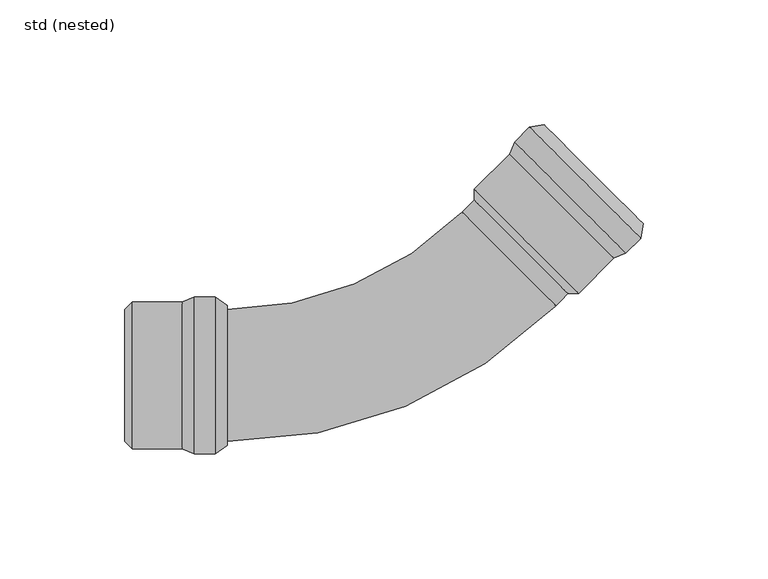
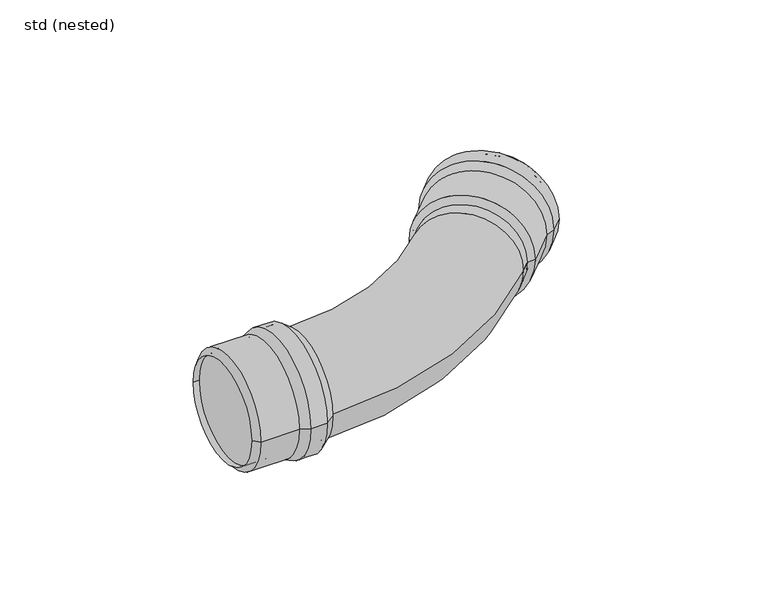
"""IFC4 building model written with IfcOpenShell, lengths in millimetres: pipe fitting geometry, ZZZ_do not use_PIF_ST_UN_GM-X pipe bend_ACO : std (nested)."""

from ifc_helpers import new_model, si_unit, point, frame, origin, place, context, project, spatial, polyline, circle_curve, ellipse_curve, trimmed, source, transform, mapped, element, save
from ifc_brep_helpers import plane_surface, cylinder_surface, revolved_surface, advanced_brep


def std_nested_b0fd537b(model_context):
    return source(origin(), model_context, "Body", "AdvancedBrep", [
        advanced_brep(
        [(-79.2, -31.5, 0.0), (-79.2, 31.5, 0.0), (-70.8, 31.5, 0.0), (-70.8, -31.5, 0.0), (-84.0, -29.5, 0.0), (-84.0, 29.5, 0.0), (-66.0, 28.0, 0.0), (-66.0, -28.0, 0.0), (-104.0, -29.5, 0.0), (-104.0, 29.5, 0.0), (-107.0, -26.5, 0.0), (-107.0, 26.5, 0.0), (-104.0, -26.5, 0.0), (-104.0, 26.5, 0.0), (-83.7, -28.0, 0.0), (-83.7, 28.0, 0.0), (-104.0, 28.0, 0.0), (-104.0, -28.0, 0.0), (-78.9, -30.0, 0.0), (-78.9, 30.0, 0.0), (-71.2888023, -30.0, 0.0), (-71.2888023, 30.0, 0.0), (-66.8837582, -26.7879887, 0.0), (-66.8837582, 26.7879887, 0.0)],
        [
            (0, 1, circle_curve(frame((-79.2, 0.0, 0.0), z_axis=(1.0, 0.0, 0.0), x_axis=(0.0, 1.0, 0.0)), 31.5)),
            (1, 2),
            (2, 3, circle_curve(frame((-70.8, 0.0, 0.0), z_axis=(-1.0, 0.0, 0.0), x_axis=(0.0, 1.0, 0.0)), 31.5)),
            (3, 0),
            (1, 0, circle_curve(frame((-79.2, 0.0, 0.0), z_axis=(1.0, 0.0, 0.0), x_axis=(0.0, 1.0, 0.0)), 31.5)),
            (3, 2, circle_curve(frame((-70.8, 0.0, 0.0), z_axis=(-1.0, 0.0, 0.0), x_axis=(0.0, 1.0, 0.0)), 31.5)),
            (4, 5, circle_curve(frame((-84.0, 0.0, 0.0), z_axis=(1.0, 0.0, 0.0), x_axis=(0.0, 1.0, 0.0)), 29.5)),
            (5, 1),
            (0, 4),
            (5, 4, circle_curve(frame((-84.0, 0.0, 0.0), z_axis=(1.0, 0.0, 0.0), x_axis=(0.0, 1.0, 0.0)), 29.5)),
            (2, 6),
            (6, 7, circle_curve(frame((-66.0, 0.0, 0.0), z_axis=(-1.0, 0.0, 0.0), x_axis=(0.0, 1.0, 0.0)), 28.0)),
            (7, 3),
            (7, 6, circle_curve(frame((-66.0, 0.0, 0.0), z_axis=(-1.0, 0.0, 0.0), x_axis=(0.0, 1.0, 0.0)), 28.0)),
            (8, 9, circle_curve(frame((-104.0, 0.0, 0.0), z_axis=(1.0, 0.0, 0.0), x_axis=(0.0, 1.0, 0.0)), 29.5)),
            (9, 5),
            (4, 8),
            (9, 8, circle_curve(frame((-104.0, 0.0, 0.0), z_axis=(1.0, 0.0, 0.0), x_axis=(0.0, 1.0, 0.0)), 29.5)),
            (10, 11, circle_curve(frame((-107.0, 0.0, 0.0), z_axis=(1.0, 0.0, 0.0), x_axis=(0.0, 1.0, 0.0)), 26.5)),
            (11, 9),
            (8, 10),
            (11, 10, circle_curve(frame((-107.0, 0.0, 0.0), z_axis=(1.0, 0.0, 0.0), x_axis=(0.0, 1.0, 0.0)), 26.5)),
            (12, 13, circle_curve(frame((-104.0, 0.0, 0.0), z_axis=(1.0, 0.0, 0.0), x_axis=(0.0, 1.0, 0.0)), 26.5)),
            (13, 11),
            (10, 12),
            (13, 12, circle_curve(frame((-104.0, 0.0, 0.0), z_axis=(1.0, 0.0, 0.0), x_axis=(0.0, 1.0, 0.0)), 26.5)),
            (14, 15, circle_curve(frame((-83.7, 0.0, 0.0), z_axis=(1.0, 0.0, 0.0), x_axis=(0.0, 1.0, 0.0)), 28.0)),
            (15, 16),
            (16, 17, circle_curve(frame((-104.0, 0.0, 0.0), z_axis=(-1.0, 0.0, 0.0), x_axis=(0.0, 1.0, 0.0)), 28.0)),
            (17, 14),
            (15, 14, circle_curve(frame((-83.7, 0.0, 0.0), z_axis=(1.0, 0.0, 0.0), x_axis=(0.0, 1.0, 0.0)), 28.0)),
            (17, 16, circle_curve(frame((-104.0, 0.0, 0.0), z_axis=(-1.0, 0.0, 0.0), x_axis=(0.0, 1.0, 0.0)), 28.0)),
            (18, 19, circle_curve(frame((-78.9, 0.0, 0.0), z_axis=(1.0, 0.0, 0.0), x_axis=(0.0, 1.0, 0.0)), 30.0)),
            (19, 15),
            (14, 18),
            (19, 18, circle_curve(frame((-78.9, 0.0, 0.0), z_axis=(1.0, 0.0, 0.0), x_axis=(0.0, 1.0, 0.0)), 30.0)),
            (20, 21, circle_curve(frame((-71.2888023, 0.0, 0.0), z_axis=(1.0, 0.0, 0.0), x_axis=(0.0, 1.0, 0.0)), 30.0)),
            (21, 19),
            (18, 20),
            (21, 20, circle_curve(frame((-71.2888023, 0.0, 0.0), z_axis=(1.0, 0.0, 0.0), x_axis=(0.0, 1.0, 0.0)), 30.0)),
            (22, 23, circle_curve(frame((-66.8837582, 0.0, 0.0), z_axis=(1.0, 0.0, 0.0), x_axis=(0.0, 1.0, 0.0)), 26.7879887)),
            (23, 21),
            (20, 22),
            (23, 22, circle_curve(frame((-66.8837582, 0.0, 0.0), z_axis=(1.0, 0.0, 0.0), x_axis=(0.0, 1.0, 0.0)), 26.7879887)),
            (6, 23),
            (22, 7),
            (16, 13),
            (12, 17),
        ],
        [
            cylinder_surface(frame((-69.3555883, 0.0, 0.0), z_axis=(-1.0, 0.0, 0.0), x_axis=(0.0, 1.0, 0.0)), 31.5),
            revolved_surface(polyline([(-79.2, 31.5, 0.0), (-84.0, 29.5, 0.0)]), (-69.3555883, 0.0, 0.0), (-1.0, 0.0, 0.0)),
            revolved_surface(polyline([(-66.0, 28.0, 0.0), (-70.8, 31.5, 0.0)]), (-69.3555883, 0.0, 0.0), (-1.0, 0.0, 0.0)),
            cylinder_surface(frame((-69.3555883, 0.0, 0.0), z_axis=(-1.0, 0.0, 0.0), x_axis=(0.0, 1.0, 0.0)), 29.5),
            revolved_surface(polyline([(-104.0, 29.5, 0.0), (-107.0, 26.5, 0.0)]), (-69.3555883, 0.0, 0.0), (-1.0, 0.0, 0.0)),
            revolved_surface(polyline([(-107.0, 26.5, 0.0), (-104.0, 26.5, 0.0)]), (-69.3555883, 0.0, 0.0), (-1.0, 0.0, 0.0)),
            revolved_surface(polyline([(-104.0, 28.0, 0.0), (-83.7, 28.0, 0.0)]), (-69.3555883, 0.0, 0.0), (-1.0, 0.0, 0.0)),
            revolved_surface(polyline([(-83.7, 28.0, 0.0), (-78.9, 30.0, 0.0)]), (-69.3555883, 0.0, 0.0), (-1.0, 0.0, 0.0)),
            revolved_surface(polyline([(-78.9, 30.0, 0.0), (-71.2888023, 30.0, 0.0)]), (-69.3555883, 0.0, 0.0), (-1.0, 0.0, 0.0)),
            revolved_surface(polyline([(-71.2888023, 30.0, 0.0), (-66.8837582, 26.7879887, 0.0)]), (-69.3555883, 0.0, 0.0), (-1.0, 0.0, 0.0)),
            revolved_surface(polyline([(-66.8837582, 26.7879887, 0.0), (-66.0, 28.0, 0.0)]), (-69.3555883, 0.0, 0.0), (-1.0, 0.0, 0.0)),
            plane_surface(frame((-104.0, 0.0, 0.0), z_axis=(1.0, 0.0, 0.0), x_axis=(0.0, 1.0, 0.0))),
        ],
        [
            (0, [[1, 2, 3, 4]]),
            (0, [[5, -4, 6, -2]]),
            (1, [[7, 8, -1, 9]]),
            (1, [[10, -9, -5, -8]]),
            (2, [[-3, 11, 12, 13]]),
            (2, [[-6, -13, 14, -11]]),
            (3, [[15, 16, -7, 17]]),
            (3, [[18, -17, -10, -16]]),
            (4, [[19, 20, -15, 21]]),
            (4, [[22, -21, -18, -20]]),
            (5, [[23, 24, -19, 25]]),
            (5, [[26, -25, -22, -24]]),
            (6, [[27, 28, 29, 30]]),
            (6, [[31, -30, 32, -28]]),
            (7, [[33, 34, -27, 35]]),
            (7, [[36, -35, -31, -34]]),
            (8, [[37, 38, -33, 39]]),
            (8, [[40, -39, -36, -38]]),
            (9, [[41, 42, -37, 43]]),
            (9, [[44, -43, -40, -42]]),
            (10, [[-12, 45, -41, 46]]),
            (10, [[-14, -46, -44, -45]]),
            (11, [[-29, 47, -23, 48]]),
            (11, [[-32, -48, -26, -47]]),
        ],
    ),
        advanced_brep(
        [(93.5481556, 49.0064546, 0.0), (48.9985452, 93.5522986, 0.0), (54.9379911, 99.4922466, 0.0), (99.4876014, 54.9464026, 0.0), (88.7399132, 47.0263523, 0.0), (47.0188495, 88.7438888, 0.0), (60.8069385, 100.4117335, 0.0), (100.4065921, 60.8154278, 0.0), (74.5983754, 32.8836189, 0.0), (32.8773117, 74.6011553, 0.0), (70.3557347, 32.8834395, 0.0), (32.8774911, 70.3585146, 0.0), (72.4769654, 35.0048495, 0.0), (34.9987217, 72.4799246, 0.0), (87.8913312, 48.2991087, 0.0), (48.2916776, 87.8954144, 0.0), (33.9380167, 73.54054, 0.0), (73.5376704, 33.9442342, 0.0), (92.6995736, 50.2792109, 0.0), (50.2713733, 92.7038242, 0.0), (98.0812756, 55.6613679, 0.0), (55.6530753, 98.0859812, 0.0), (98.9246495, 61.0474751, 0.0), (61.0391111, 98.9298105, 0.0)],
        [
            (0, 1, circle_curve(frame((71.2733504, 71.2793766, 0.0), z_axis=(0.7070768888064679, 0.7071366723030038, 0.0), x_axis=(-0.7071366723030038, 0.7070768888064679, 0.0)), 31.5)),
            (1, 2),
            (2, 3, circle_curve(frame((77.2127963, 77.2193246, 0.0), z_axis=(-0.7070768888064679, -0.7071366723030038, 0.0), x_axis=(-0.7071366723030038, 0.7070768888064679, 0.0)), 31.5)),
            (3, 0),
            (1, 0, circle_curve(frame((71.2733504, 71.2793766, 0.0), z_axis=(0.7070768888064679, 0.7071366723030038, 0.0), x_axis=(-0.7071366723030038, 0.7070768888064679, 0.0)), 31.5)),
            (3, 2, circle_curve(frame((77.2127963, 77.2193246, 0.0), z_axis=(-0.7070768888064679, -0.7071366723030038, 0.0), x_axis=(-0.7071366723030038, 0.7070768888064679, 0.0)), 31.5)),
            (4, 5, circle_curve(frame((67.8793813, 67.8851205, 0.0), z_axis=(0.7070768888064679, 0.7071366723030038, 0.0), x_axis=(-0.7071366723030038, 0.7070768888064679, 0.0)), 29.5)),
            (5, 1),
            (0, 4),
            (5, 4, circle_curve(frame((67.8793813, 67.8851205, 0.0), z_axis=(0.7070768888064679, 0.7071366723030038, 0.0), x_axis=(-0.7071366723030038, 0.7070768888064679, 0.0)), 29.5)),
            (2, 6),
            (6, 7, circle_curve(frame((80.6067653, 80.6135806, 0.0), z_axis=(-0.7070768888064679, -0.7071366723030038, 0.0), x_axis=(-0.7071366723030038, 0.7070768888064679, 0.0)), 28.0)),
            (7, 3),
            (7, 6, circle_curve(frame((80.6067653, 80.6135806, 0.0), z_axis=(-0.7070768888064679, -0.7071366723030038, 0.0), x_axis=(-0.7071366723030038, 0.7070768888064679, 0.0)), 28.0)),
            (8, 9, circle_curve(frame((53.7378435, 53.7423871, 0.0), z_axis=(0.7070768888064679, 0.7071366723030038, 0.0), x_axis=(-0.7071366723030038, 0.7070768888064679, 0.0)), 29.5)),
            (9, 5),
            (4, 8),
            (9, 8, circle_curve(frame((53.7378435, 53.7423871, 0.0), z_axis=(0.7070768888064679, 0.7071366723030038, 0.0), x_axis=(-0.7071366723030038, 0.7070768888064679, 0.0)), 29.5)),
            (10, 11, circle_curve(frame((51.6166129, 51.6209771, 0.0), z_axis=(0.7070768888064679, 0.7071366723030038, 0.0), x_axis=(-0.7071366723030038, 0.7070768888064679, 0.0)), 26.5)),
            (11, 9),
            (8, 10),
            (11, 10, circle_curve(frame((51.6166129, 51.6209771, 0.0), z_axis=(0.7070768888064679, 0.7071366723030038, 0.0), x_axis=(-0.7071366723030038, 0.7070768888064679, 0.0)), 26.5)),
            (12, 13, circle_curve(frame((53.7378435, 53.7423871, 0.0), z_axis=(0.7070768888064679, 0.7071366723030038, 0.0), x_axis=(-0.7071366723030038, 0.7070768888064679, 0.0)), 26.5)),
            (13, 11),
            (10, 12),
            (13, 12, circle_curve(frame((53.7378435, 53.7423871, 0.0), z_axis=(0.7070768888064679, 0.7071366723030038, 0.0), x_axis=(-0.7071366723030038, 0.7070768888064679, 0.0)), 26.5)),
            (14, 15, circle_curve(frame((68.0915044, 68.0972615, 0.0), z_axis=(0.7070768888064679, 0.7071366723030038, 0.0), x_axis=(-0.7071366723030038, 0.7070768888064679, 0.0)), 28.0)),
            (15, 16),
            (16, 17, circle_curve(frame((53.7378435, 53.7423871, 0.0), z_axis=(-0.7070768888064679, -0.7071366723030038, 0.0), x_axis=(-0.7071366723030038, 0.7070768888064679, 0.0)), 28.0)),
            (17, 14),
            (15, 14, circle_curve(frame((68.0915044, 68.0972615, 0.0), z_axis=(0.7070768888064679, 0.7071366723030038, 0.0), x_axis=(-0.7071366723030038, 0.7070768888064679, 0.0)), 28.0)),
            (17, 16, circle_curve(frame((53.7378435, 53.7423871, 0.0), z_axis=(-0.7070768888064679, -0.7071366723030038, 0.0), x_axis=(-0.7071366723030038, 0.7070768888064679, 0.0)), 28.0)),
            (18, 19, circle_curve(frame((71.4854735, 71.4915176, 0.0), z_axis=(0.7070768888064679, 0.7071366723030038, 0.0), x_axis=(-0.7071366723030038, 0.7070768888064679, 0.0)), 30.0)),
            (19, 15),
            (14, 18),
            (19, 18, circle_curve(frame((71.4854735, 71.4915176, 0.0), z_axis=(0.7070768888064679, 0.7071366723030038, 0.0), x_axis=(-0.7071366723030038, 0.7070768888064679, 0.0)), 30.0)),
            (20, 21, circle_curve(frame((76.8671754, 76.8736746, 0.0), z_axis=(0.7070768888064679, 0.7071366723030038, 0.0), x_axis=(-0.7071366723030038, 0.7070768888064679, 0.0)), 30.0)),
            (21, 19),
            (18, 20),
            (21, 20, circle_curve(frame((76.8671754, 76.8736746, 0.0), z_axis=(0.7070768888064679, 0.7071366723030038, 0.0), x_axis=(-0.7071366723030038, 0.7070768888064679, 0.0)), 30.0)),
            (22, 23, circle_curve(frame((79.9818803, 79.9886428, 0.0), z_axis=(0.7070768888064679, 0.7071366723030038, 0.0), x_axis=(-0.7071366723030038, 0.7070768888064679, 0.0)), 26.7879887)),
            (23, 21),
            (20, 22),
            (23, 22, circle_curve(frame((79.9818803, 79.9886428, 0.0), z_axis=(0.7070768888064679, 0.7071366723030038, 0.0), x_axis=(-0.7071366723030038, 0.7070768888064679, 0.0)), 26.7879887)),
            (6, 23),
            (22, 7),
            (16, 13),
            (12, 17),
        ],
        [
            cylinder_surface(frame((78.2341064, 78.2407211, 0.0), z_axis=(-0.7070768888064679, -0.7071366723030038, 0.0), x_axis=(-0.7071366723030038, 0.7070768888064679, 0.0)), 31.5),
            revolved_surface(polyline([(48.9985452, 93.5522986, 0.0), (47.0188495, 88.7438888, 0.0)]), (78.2341064, 78.2407211, 0.0), (-0.7070768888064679, -0.7071366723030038, 0.0)),
            revolved_surface(polyline([(60.8069385, 100.4117335, 0.0), (54.9379911, 99.4922466, 0.0)]), (78.2341064, 78.2407211, 0.0), (-0.7070768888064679, -0.7071366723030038, 0.0)),
            cylinder_surface(frame((78.2341064, 78.2407211, 0.0), z_axis=(-0.7070768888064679, -0.7071366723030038, 0.0), x_axis=(-0.7071366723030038, 0.7070768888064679, 0.0)), 29.5),
            revolved_surface(polyline([(32.8773117, 74.6011553, 0.0), (32.8774911, 70.3585146, 0.0)]), (78.2341064, 78.2407211, 0.0), (-0.7070768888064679, -0.7071366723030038, 0.0)),
            revolved_surface(polyline([(32.87749105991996, 70.35851461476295, 0.0), (34.99872173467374, 72.47992464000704, 0.0)]), (78.2341064, 78.2407211, 0.0), (-0.7070768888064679, -0.7071366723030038, 0.0)),
            revolved_surface(polyline([(33.93801670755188, 73.54053995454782, 0.0), (48.29167758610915, 87.8954144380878, 0.0)]), (78.2341064, 78.2407211, 0.0), (-0.7070768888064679, -0.7071366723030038, 0.0)),
            revolved_surface(polyline([(48.2916776, 87.8954144, 0.0), (50.2713733, 92.7038242, 0.0)]), (78.2341064, 78.2407211, 0.0), (-0.7070768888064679, -0.7071366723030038, 0.0)),
            revolved_surface(polyline([(50.27137327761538, 92.7038242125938, 0.0), (55.653075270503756, 98.08598122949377, 0.0)]), (78.2341064, 78.2407211, 0.0), (-0.7070768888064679, -0.7071366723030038, 0.0)),
            revolved_surface(polyline([(55.6530753, 98.0859812, 0.0), (61.0391111, 98.9298105, 0.0)]), (78.2341064, 78.2407211, 0.0), (-0.7070768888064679, -0.7071366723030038, 0.0)),
            revolved_surface(polyline([(61.0391111, 98.9298105, 0.0), (60.8069385, 100.4117335, 0.0)]), (78.2341064, 78.2407211, 0.0), (-0.7070768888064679, -0.7071366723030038, 0.0)),
            plane_surface(frame((53.7378435, 53.7423871, 0.0), z_axis=(0.7070768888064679, 0.7071366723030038, 0.0), x_axis=(-0.7071366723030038, 0.7070768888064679, 0.0))),
        ],
        [
            (0, [[1, 2, 3, 4]]),
            (0, [[5, -4, 6, -2]]),
            (1, [[7, 8, -1, 9]]),
            (1, [[10, -9, -5, -8]]),
            (2, [[-3, 11, 12, 13]]),
            (2, [[-6, -13, 14, -11]]),
            (3, [[15, 16, -7, 17]]),
            (3, [[18, -17, -10, -16]]),
            (4, [[19, 20, -15, 21]]),
            (4, [[22, -21, -18, -20]]),
            (5, [[23, 24, -19, 25]]),
            (5, [[26, -25, -22, -24]]),
            (6, [[27, 28, 29, 30]]),
            (6, [[31, -30, 32, -28]]),
            (7, [[33, 34, -27, 35]]),
            (7, [[36, -35, -31, -34]]),
            (8, [[37, 38, -33, 39]]),
            (8, [[40, -39, -36, -38]]),
            (9, [[41, 42, -37, 43]]),
            (9, [[44, -43, -40, -42]]),
            (10, [[-12, 45, -41, 46]]),
            (10, [[-14, -46, -44, -45]]),
            (11, [[-29, 47, -23, 48]]),
            (11, [[-32, -48, -26, -47]]),
        ],
    ),
        advanced_brep(
        [(27.9279528, 65.4085579, 0.0), (-66.0, 26.5, 0.0), (-66.0, -26.5, 0.0), (65.4061965, 27.9334828, 0.0), (46.6670747, 46.6710204, 26.5), (46.6670747, 46.6710204, -26.5), (-104.0, -26.5, 0.0), (-104.0, 26.5, 0.0), (72.4769654, 35.0048495, 0.0), (34.9987217, 72.4799246, 0.0)],
        [
            (0, 1, circle_curve(frame((-66.0, 159.3285698, 0.0), z_axis=(0.0, 0.0, -1.0), x_axis=(0.0, -1.0, 0.0)), 132.8285698)),
            (1, 2, circle_curve(frame((-66.0, 0.0, 0.0), z_axis=(1.0, 0.0, 0.0), x_axis=(0.0, 1.0, 0.0)), 26.5)),
            (2, 3, circle_curve(frame((-66.0, 159.3285698, 0.0), z_axis=(0.0, 0.0, 1.0), x_axis=(0.0, -1.0, 0.0)), 185.8285698)),
            (3, 4, circle_curve(frame((46.6670747, 46.6710204, 0.0), z_axis=(-0.7070768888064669, -0.7071366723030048, 0.0), x_axis=(-0.7071366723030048, 0.7070768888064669, 0.0)), 26.5)),
            (4, 0, circle_curve(frame((46.6670747, 46.6710204, 0.0), z_axis=(-0.7070768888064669, -0.7071366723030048, 0.0), x_axis=(-0.7071366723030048, 0.7070768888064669, 0.0)), 26.5)),
            (0, 5, circle_curve(frame((46.6670747, 46.6710204, 0.0), z_axis=(-0.7070768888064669, -0.7071366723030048, 0.0), x_axis=(-0.7071366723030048, 0.7070768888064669, 0.0)), 26.5)),
            (5, 3, circle_curve(frame((46.6670747, 46.6710204, 0.0), z_axis=(-0.7070768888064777, -0.707136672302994, 0.0), x_axis=(-0.707136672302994, 0.7070768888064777, 0.0)), 26.5)),
            (2, 1, circle_curve(frame((-66.0, 0.0, 0.0), z_axis=(1.0, 0.0, 0.0), x_axis=(0.0, 1.0, 0.0)), 26.5)),
            (6, 7, circle_curve(frame((-104.0, 0.0, 0.0), z_axis=(-1.0, 0.0, 0.0), x_axis=(0.0, 1.0, 0.0)), 26.5)),
            (7, 6, circle_curve(frame((-104.0, 0.0, 0.0), z_axis=(-1.0, 0.0, 0.0), x_axis=(0.0, 1.0, 0.0)), 26.5)),
            (7, 1),
            (2, 6),
            (8, 9, circle_curve(frame((53.7378435, 53.7423871, 0.0), z_axis=(0.7070768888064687, 0.7071366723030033, 0.0), x_axis=(-0.7071366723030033, 0.7070768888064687, 0.0)), 26.5)),
            (9, 8, circle_curve(frame((53.7378435, 53.7423871, 0.0), z_axis=(0.7070768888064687, 0.7071366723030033, 0.0), x_axis=(-0.7071366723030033, 0.7070768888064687, 0.0)), 26.5)),
            (9, 0),
            (3, 8),
        ],
        [
            revolved_surface(trimmed(ellipse_curve(frame((-66.0, 0.0, 0.0), z_axis=(-1.0, 0.0, 0.0), x_axis=(0.0, 1.0, 0.0)), 26.5, 26.5), [point((-66.0, -26.5, 0.0))], [point((-66.0, 26.5, 0.0))], True, "CARTESIAN"), (-66.0, 159.3285698, 0.0), (0.0, 0.0, 1.0)),
            revolved_surface(trimmed(ellipse_curve(frame((-66.0, 0.0, 0.0), z_axis=(-1.0, 0.0, 0.0), x_axis=(0.0, 1.0, 0.0)), 26.5, 26.5), [point((-66.0, 26.5, 0.0))], [point((-66.0, -26.5, 0.0))], True, "CARTESIAN"), (-66.0, 159.3285698, 0.0), (0.0, 0.0, 1.0)),
            plane_surface(frame((-104.0, 26.5, 0.0), z_axis=(-1.0, 0.0, 0.0), x_axis=(0.0, 0.0, -1.0))),
            cylinder_surface(frame((-104.0, 0.0, 0.0), z_axis=(1.0, 0.0, 0.0), x_axis=(0.0, 1.0, 0.0)), 26.5),
            plane_surface(frame((53.7378435, 53.7423871, 0.0), z_axis=(0.7070768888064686, 0.7071366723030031, 0.0), x_axis=(0.0, 0.0, 1.0))),
            cylinder_surface(frame((46.6670747, 46.6710204, 0.0), z_axis=(-0.7070768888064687, -0.7071366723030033, 0.0), x_axis=(-0.7071366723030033, 0.7070768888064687, 0.0)), 26.5),
        ],
        [
            (0, [[1, 2, 3, 4, 5]]),
            (1, [[-1, 6, 7, -3, 8]]),
            (2, [[9, 10]]),
            (3, [[-10, 11, -8, 12]]),
            (3, [[-9, -12, -2, -11]]),
            (4, [[13, 14]]),
            (5, [[-14, 15, -5, -4, 16]]),
            (5, [[-13, -16, -7, -6, -15]]),
        ],
    ),
    ])


if __name__ == "__main__":
    model = new_model("IFC4")
    model_context = context("Model", 3, world=origin())
    ifc_project = project(units=[si_unit("LENGTHUNIT", "METRE", prefix="MILLI")], contexts=[model_context])
    site = spatial("IfcSite", under=ifc_project)
    building = spatial("IfcBuilding", under=site)
    placement = place(None, origin())
    std_nested_shape = std_nested_b0fd537b(model_context)
    element("IfcPipeFitting", 1, ObjectType="ZZZ_do not use_PIF_ST_UN_GM-X pipe bend_ACO : std (nested)", at=placement, inside=building, context=model_context, shape_type="MappedRepresentation", body=[
        mapped(std_nested_shape, transform((0.0, 0.0, 0.0), x_axis=(1.0, 0.0, 0.0), y_axis=(0.0, 1.0, 0.0), z_axis=(0.0, 0.0, 1.0))),
    ])
    save(model, "model.ifc")
